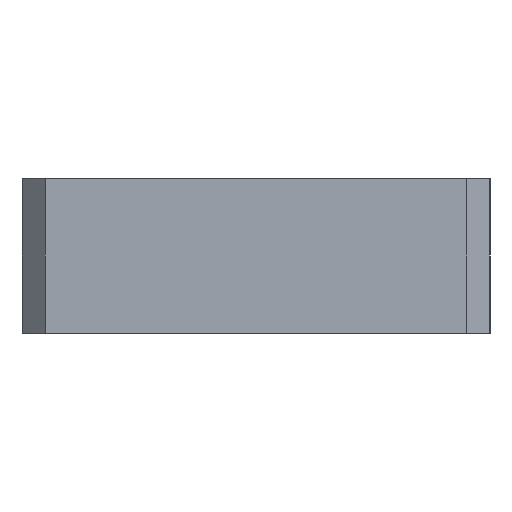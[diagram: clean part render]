
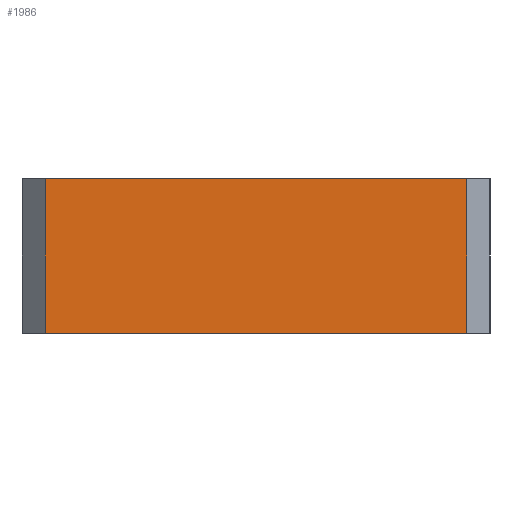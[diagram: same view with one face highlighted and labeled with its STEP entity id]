
A CAD part, left-side view. The second image highlights one B-rep face of the part: STEP entity #1986.
In plain terms, the highlighted planar face has unit normal (-1, 0, 0).
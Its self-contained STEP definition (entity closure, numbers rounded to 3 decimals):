
#215 = DIRECTION ( 'NONE',  ( 1., 0., 0. ) ) ;
#245 = DIRECTION ( 'NONE',  ( 0., -1., 0. ) ) ;
#357 = AXIS2_PLACEMENT_3D ( 'NONE', #2980, #215, #1684 ) ;
#367 = LINE ( 'NONE', #2611, #2403 ) ;
#579 = ORIENTED_EDGE ( 'NONE', *, *, #1859, .T. ) ;
#604 = LINE ( 'NONE', #2497, #2559 ) ;
#605 = CARTESIAN_POINT ( 'NONE',  ( -65., 45., 33. ) ) ;
#856 = CARTESIAN_POINT ( 'NONE',  ( -65., -45., 33. ) ) ;
#1089 = VERTEX_POINT ( 'NONE', #2418 ) ;
#1366 = CARTESIAN_POINT ( 'NONE',  ( -65., -45., 33. ) ) ;
#1379 = VERTEX_POINT ( 'NONE', #856 ) ;
#1382 = ORIENTED_EDGE ( 'NONE', *, *, #2153, .T. ) ;
#1524 = LINE ( 'NONE', #1753, #2825 ) ;
#1574 = DIRECTION ( 'NONE',  ( 0., -1., 0. ) ) ;
#1684 = DIRECTION ( 'NONE',  ( 0., 1., 0. ) ) ;
#1753 = CARTESIAN_POINT ( 'NONE',  ( -65., 50., 33. ) ) ;
#1859 = EDGE_CURVE ( 'NONE', #1089, #3269, #367, .T. ) ;
#1986 = ADVANCED_FACE ( 'NONE', ( #2970 ), #2728, .F. ) ;
#1991 = DIRECTION ( 'NONE',  ( 0., 0., -1. ) ) ;
#2105 = VERTEX_POINT ( 'NONE', #605 ) ;
#2137 = DIRECTION ( 'NONE',  ( 0., 0., 1. ) ) ;
#2153 = EDGE_CURVE ( 'NONE', #3269, #1379, #3079, .T. ) ;
#2325 = EDGE_CURVE ( 'NONE', #2105, #1089, #604, .T. ) ;
#2398 = VECTOR ( 'NONE', #2137, 1000. ) ;
#2403 = VECTOR ( 'NONE', #1574, 1000. ) ;
#2418 = CARTESIAN_POINT ( 'NONE',  ( -65., 45., 0. ) ) ;
#2464 = CARTESIAN_POINT ( 'NONE',  ( -65., -45., 0. ) ) ;
#2497 = CARTESIAN_POINT ( 'NONE',  ( -65., 45., 33. ) ) ;
#2559 = VECTOR ( 'NONE', #1991, 1000. ) ;
#2611 = CARTESIAN_POINT ( 'NONE',  ( -65., 50., 0. ) ) ;
#2728 = PLANE ( 'NONE',  #357 ) ;
#2747 = ORIENTED_EDGE ( 'NONE', *, *, #2325, .T. ) ;
#2765 = EDGE_CURVE ( 'NONE', #2105, #1379, #1524, .T. ) ;
#2825 = VECTOR ( 'NONE', #245, 1000. ) ;
#2970 = FACE_OUTER_BOUND ( 'NONE', #3178, .T. ) ;
#2980 = CARTESIAN_POINT ( 'NONE',  ( -65., 50., 33. ) ) ;
#2989 = ORIENTED_EDGE ( 'NONE', *, *, #2765, .F. ) ;
#3079 = LINE ( 'NONE', #1366, #2398 ) ;
#3178 = EDGE_LOOP ( 'NONE', ( #2989, #2747, #579, #1382 ) ) ;
#3269 = VERTEX_POINT ( 'NONE', #2464 ) ;
